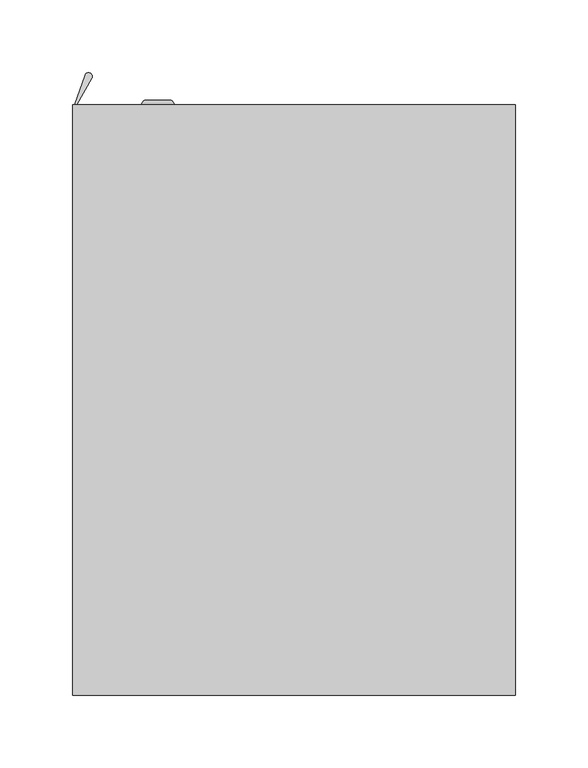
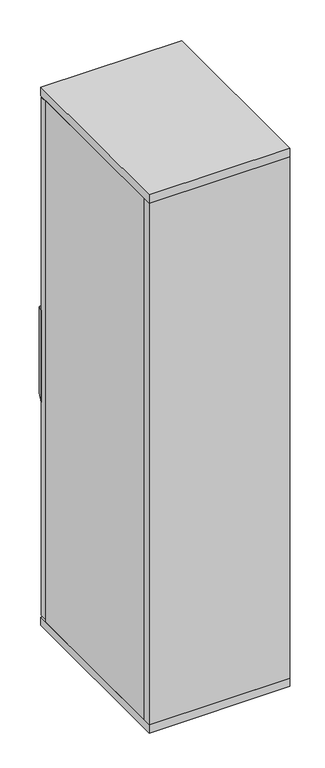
"""IFC4 building model written with IfcOpenShell, lengths in millimetres: furniture geometry, Haworth_BeHold_Wardrobe : Single Door - 12w 16d 49h - Proud Back."""

from ifc_helpers import new_model, si_unit, point, frame, origin, place, context, project, spatial, polyline, circle_curve, ellipse_curve, trimmed, outline, extrude, source, transform, mapped, element, save
from ifc_brep_helpers import plane_surface, cylinder_surface, revolved_surface, advanced_brep


def furniture_bbbaedec(model_context):
    return source(origin(), model_context, "Body", "SolidModel", [
        advanced_brep(
        [(-306.2746476, 571.5, 733.7226562), (-307.6716553, 571.5, 733.7226562), (-307.6716553, 571.5, 522.5851562), (-306.2746476, 571.5, 522.5851562), (-300.7543854, 591.7137158, 726.3654654), (-300.7543854, 591.7137158, 529.9423471), (-296.1317146, 589.6513306, 727.1161122), (-296.1317146, 589.6513306, 529.1917003)],
        [
            (0, 1),
            (1, 2),
            (2, 3),
            (3, 0),
            (1, 4),
            (4, 5),
            (5, 2),
            (4, 6, ellipse_curve(frame((-298.3500652, 590.8909412, 726.6649308), z_axis=(0.0, -0.34202014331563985, -0.9396926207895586), x_axis=(0.0, -0.9396926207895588, 0.3420201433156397)), 2.704292, 2.5412032)),
            (6, 7),
            (7, 5, ellipse_curve(frame((-298.3500652, 590.8909412, 529.6428817), z_axis=(0.0, -0.3420201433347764, 0.9396926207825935), x_axis=(0.0, 0.9396926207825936, 0.34202014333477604)), 2.704292, 2.5412032)),
            (3, 7),
            (6, 0),
        ],
        [
            plane_surface(frame((-306.2746476, 571.5, 733.7226562), z_axis=(0.0, -1.0, 0.0), x_axis=(0.0, 0.0, -1.0))),
            plane_surface(frame((-307.6716553, 571.5, 733.7226562), z_axis=(-0.946134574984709, 0.3237736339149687, 0.0), x_axis=(0.0, 0.0, -1.0))),
            cylinder_surface(frame((-298.3500652, 590.8909412, 733.7226562), z_axis=(0.0, 0.0, 1.0), x_axis=(0.0, 1.0, 0.0)), 2.5412032),
            plane_surface(frame((-296.1317146, 589.6513306, 733.7226562), z_axis=(0.8729528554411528, -0.4878045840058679, 0.0), x_axis=(0.0, 0.0, -1.0))),
            plane_surface(frame((-320.3716553, 571.5, 733.7226562), z_axis=(0.0, 0.34202014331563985, 0.9396926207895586), x_axis=(1.0, 0.0, 0.0))),
            plane_surface(frame((-320.3716553, 597.9795, 532.2229061), z_axis=(0.0, 0.3420201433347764, -0.9396926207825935), x_axis=(1.0, 0.0, 0.0))),
        ],
        [
            (0, [[1, 2, 3, 4]]),
            (1, [[5, 6, 7, -2]]),
            (2, [[8, 9, 10, -6]]),
            (3, [[11, -9, 12, -4]]),
            (4, [[-12, -8, -5, -1]]),
            (5, [[-7, -10, -11, -3]]),
        ],
    ),
        advanced_brep(
        [(-258.4584311, 574.6753876, 628.1539062), (-250.5216553, 574.6753876, 628.1539062), (-242.5848796, 574.6753876, 628.1539062), (-261.6349305, 571.5, 628.1539062), (-239.4083802, 571.5, 628.1539062), (-250.5216553, 571.5, 628.1539062)],
        [
            (0, 1),
            (1, 2),
            (2, 0, circle_curve(frame((-250.5216553, 574.6753876, 628.1539062), z_axis=(0.0, 1.0, 0.0), x_axis=(1.0, 0.0, 0.0)), 7.9367757)),
            (0, 2, circle_curve(frame((-250.5216553, 574.6753876, 628.1539062), z_axis=(0.0, 1.0, 0.0), x_axis=(1.0, 0.0, 0.0)), 7.9367757)),
            (3, 0, circle_curve(frame((-258.4584311, 571.498888, 628.1539062), z_axis=(0.0, 0.0, -1.0), x_axis=(0.0, 1.0, 0.0)), 3.1764996)),
            (2, 4, circle_curve(frame((-242.5848796, 571.498888, 628.1539062), z_axis=(0.0, 0.0, -1.0), x_axis=(0.0, 1.0, 0.0)), 3.1764996)),
            (4, 3, circle_curve(frame((-250.5216553, 571.5, 628.1539062), z_axis=(0.0, 1.0, 0.0), x_axis=(1.0, 0.0, 0.0)), 11.1132751)),
            (3, 4, circle_curve(frame((-250.5216553, 571.5, 628.1539062), z_axis=(0.0, 1.0, 0.0), x_axis=(1.0, 0.0, 0.0)), 11.1132751)),
            (5, 3),
            (4, 5),
        ],
        [
            plane_surface(frame((-250.5216553, 574.6753876, 628.1539062), z_axis=(0.0, 1.0, 0.0), x_axis=(1.0, 0.0, 0.0))),
            revolved_surface(trimmed(ellipse_curve(frame((-242.5848796, 571.498888, 628.1539062), z_axis=(0.0, 0.0, -1.0), x_axis=(0.0, 1.0, 0.0)), 3.1764996, 3.1764996), [point((-242.5848796, 574.6753876, 628.1539062))], [point((-239.4083802, 571.5, 628.1539062))], True, "CARTESIAN"), (-250.5216553, 533.4, 628.1539062), (0.0, -1.0, 0.0)),
            plane_surface(frame((-250.5216553, 571.5, 628.1539062), z_axis=(0.0, -1.0, 0.0), x_axis=(1.0, 0.0, 0.0))),
        ],
        [
            (0, [[1, 2, 3]]),
            (0, [[-2, -1, 4]]),
            (1, [[5, -3, 6, 7]]),
            (1, [[-6, -4, -5, 8]]),
            (2, [[9, -7, 10]]),
            (2, [[-10, -8, -9]]),
        ],
    ),
        extrude(outline(polyline([(-6.0466553, 571.5), (-6.0466553, 552.45), (-307.6716553, 552.45), (-307.6716553, 571.5), (-6.0466553, 571.5)])), frame((0.0, 0.0, 34.925), z_axis=(0.0, 0.0, 1.0), x_axis=(1.0, 0.0, 0.0)), (0.0, 0.0, 1.0), 1186.4578125),
        extrude(outline(polyline([(-23.5091553, 184.15), (-290.2091553, 184.15), (-290.2091553, 552.45), (-23.5091553, 552.45), (-23.5091553, 184.15)])), frame((0.0, 0.0, 242.8875), z_axis=(0.0, 0.0, 1.0), x_axis=(1.0, 0.0, 0.0)), (0.0, 0.0, 1.0), 19.05),
        extrude(outline(polyline([(-4.4591553, 165.1), (-309.2591553, 165.1), (-309.2591553, 571.5), (-4.4591553, 571.5), (-4.4591553, 165.1)])), frame((0.0, 0.0, 1225.55), z_axis=(0.0, 0.0, 1.0), x_axis=(1.0, 0.0, 0.0)), (0.0, 0.0, 1.0), 19.05),
        extrude(outline(polyline([(-4.4591553, 184.15), (-4.4591553, 165.1), (-309.2591553, 165.1), (-309.2591553, 184.15), (-4.4591553, 184.15)])), frame((0.0, 0.0, 31.75), z_axis=(0.0, 0.0, 1.0), x_axis=(1.0, 0.0, 0.0)), (0.0, 0.0, 1.0), 1193.8),
        extrude(outline(polyline([(-4.4591553, 184.15), (-23.5091553, 184.15), (-23.5091553, 552.45), (-4.4591553, 552.45), (-4.4591553, 184.15)])), frame((0.0, 0.0, 31.75), z_axis=(0.0, 0.0, 1.0), x_axis=(1.0, 0.0, 0.0)), (0.0, 0.0, 1.0), 1193.8),
        extrude(outline(polyline([(-309.2591553, 552.45), (-290.2091553, 552.45), (-290.2091553, 184.15), (-309.2591553, 184.15), (-309.2591553, 552.45)])), frame((0.0, 0.0, 31.75), z_axis=(0.0, 0.0, 1.0), x_axis=(1.0, 0.0, 0.0)), (0.0, 0.0, 1.0), 1193.8),
        extrude(outline(polyline([(-4.4591553, 165.1), (-309.2591553, 165.1), (-309.2591553, 571.5), (-4.4591553, 571.5), (-4.4591553, 165.1)])), frame((0.0, 0.0, 12.7), z_axis=(0.0, 0.0, 1.0), x_axis=(1.0, 0.0, 0.0)), (0.0, 0.0, 1.0), 19.05),
    ])


if __name__ == "__main__":
    model = new_model("IFC4")
    model_context = context("Model", 3, world=origin())
    ifc_project = project(units=[si_unit("LENGTHUNIT", "METRE", prefix="MILLI")], contexts=[model_context])
    site = spatial("IfcSite", under=ifc_project)
    building = spatial("IfcBuilding", under=site)
    placement = place(None, origin())
    furniture_shape = furniture_bbbaedec(model_context)
    element("IfcFurniture", 1, ObjectType="Haworth_BeHold_Wardrobe : Single Door - 12w 16d 49h - Proud Back", at=placement, inside=building, context=model_context, shape_type="MappedRepresentation", body=[
        mapped(furniture_shape, transform((0.0, 0.0, 0.0), x_axis=(1.0, 0.0, 0.0), y_axis=(0.0, 1.0, 0.0), z_axis=(0.0, 0.0, 1.0))),
    ])
    save(model, "model.ifc")
